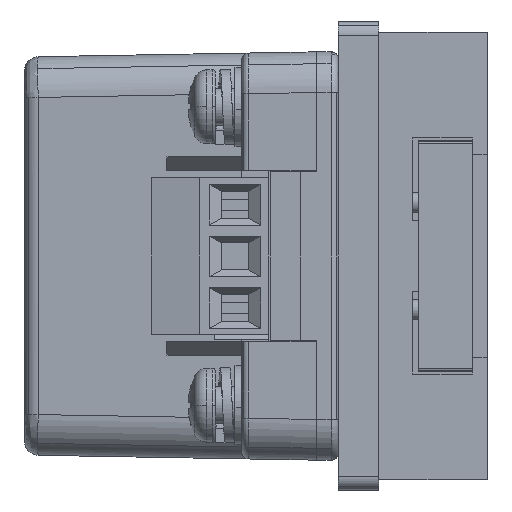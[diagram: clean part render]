
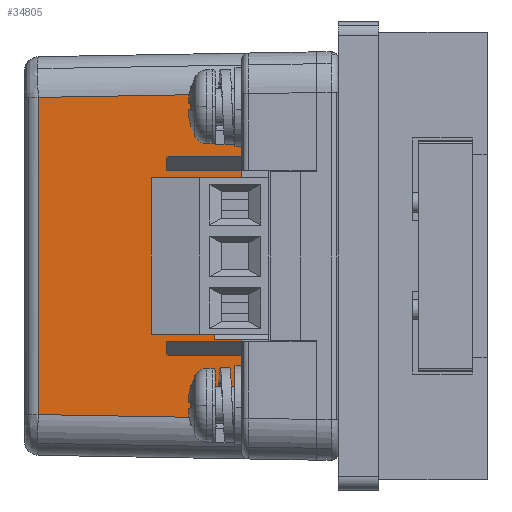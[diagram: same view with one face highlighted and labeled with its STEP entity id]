
A CAD part, left-side view. The second image highlights one B-rep face of the part: STEP entity #34805.
In plain terms, the highlighted planar face has unit normal (-1, 0.018, 0) as drawn and (-1, 0, -0.017) by its records, which use the part's own axes.
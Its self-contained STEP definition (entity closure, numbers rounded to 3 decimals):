
#70 = CARTESIAN_POINT ( 'NONE',  ( -30.569, 7.926, 0.592 ) ) ;
#672 = VERTEX_POINT ( 'NONE', #53516 ) ;
#1274 = CARTESIAN_POINT ( 'NONE',  ( -30.656, -2.749, 5.561 ) ) ;
#1493 = LINE ( 'NONE', #49511, #52818 ) ;
#2602 = LINE ( 'NONE', #17423, #18340 ) ;
#2628 = CARTESIAN_POINT ( 'NONE',  ( -30.656, 10.851, 5.561 ) ) ;
#3668 = ORIENTED_EDGE ( 'NONE', *, *, #37561, .T. ) ;
#4061 = VECTOR ( 'NONE', #16857, 1000. ) ;
#5922 = CARTESIAN_POINT ( 'NONE',  ( -30.665, 10.851, 6.104 ) ) ;
#6237 = EDGE_CURVE ( 'NONE', #34881, #31266, #39708, .T. ) ;
#6418 = VERTEX_POINT ( 'NONE', #15661 ) ;
#7429 = EDGE_CURVE ( 'NONE', #13180, #672, #14000, .T. ) ;
#7533 = VECTOR ( 'NONE', #15758, 1000. ) ;
#7850 = DIRECTION ( 'NONE',  ( -0.017, 0., 1. ) ) ;
#7938 = VECTOR ( 'NONE', #32902, 1000. ) ;
#8865 = VERTEX_POINT ( 'NONE', #49269 ) ;
#9590 = VERTEX_POINT ( 'NONE', #47545 ) ;
#9937 = EDGE_CURVE ( 'NONE', #31266, #38169, #31050, .T. ) ;
#11010 = VERTEX_POINT ( 'NONE', #58834 ) ;
#11232 = VECTOR ( 'NONE', #22037, 1000. ) ;
#11693 = ORIENTED_EDGE ( 'NONE', *, *, #9937, .F. ) ;
#12250 = EDGE_CURVE ( 'NONE', #13027, #13180, #48298, .T. ) ;
#12822 = CARTESIAN_POINT ( 'NONE',  ( -30.665, 15.506, 6.104 ) ) ;
#13027 = VERTEX_POINT ( 'NONE', #60389 ) ;
#13180 = VERTEX_POINT ( 'NONE', #33478 ) ;
#14000 = LINE ( 'NONE', #70, #7938 ) ;
#14325 = DIRECTION ( 'NONE',  ( -0.017, 0., 1. ) ) ;
#15225 = ORIENTED_EDGE ( 'NONE', *, *, #6237, .F. ) ;
#15346 = EDGE_CURVE ( 'NONE', #6418, #8865, #1493, .T. ) ;
#15469 = LINE ( 'NONE', #38440, #7533 ) ;
#15661 = CARTESIAN_POINT ( 'NONE',  ( -30.665, 9.851, 6.104 ) ) ;
#15758 = DIRECTION ( 'NONE',  ( 0., -1., 0. ) ) ;
#16121 = CARTESIAN_POINT ( 'NONE',  ( -30.652, -8.39, 5.341 ) ) ;
#16302 = DIRECTION ( 'NONE',  ( 0.017, 0., -1. ) ) ;
#16857 = DIRECTION ( 'NONE',  ( -0.017, 0.017, 1. ) ) ;
#17143 = FACE_OUTER_BOUND ( 'NONE', #24512, .T. ) ;
#17423 = CARTESIAN_POINT ( 'NONE',  ( -30.569, 14.226, 0.592 ) ) ;
#17446 = CARTESIAN_POINT ( 'NONE',  ( -30.668, 15.508, 6.244 ) ) ;
#17748 = CARTESIAN_POINT ( 'NONE',  ( -30.665, 18.601, 6.104 ) ) ;
#18340 = VECTOR ( 'NONE', #54931, 1000. ) ;
#19217 = ORIENTED_EDGE ( 'NONE', *, *, #39158, .T. ) ;
#19857 = DIRECTION ( 'NONE',  ( -0.017, 0., 1. ) ) ;
#20231 = VECTOR ( 'NONE', #7850, 1000. ) ;
#20276 = ORIENTED_EDGE ( 'NONE', *, *, #29625, .T. ) ;
#21424 = CARTESIAN_POINT ( 'NONE',  ( -30.403, 11.076, -8.913 ) ) ;
#22017 = EDGE_CURVE ( 'NONE', #53495, #59311, #56879, .T. ) ;
#22037 = DIRECTION ( 'NONE',  ( 0., 1., 0. ) ) ;
#22333 = DIRECTION ( 'NONE',  ( 0.017, 0., -1. ) ) ;
#22337 = VECTOR ( 'NONE', #22333, 1000. ) ;
#22392 = PLANE ( 'NONE',  #52546 ) ;
#24512 = EDGE_LOOP ( 'NONE', ( #11693, #15225, #39594, #44194, #55030, #20276, #58910, #19217, #54547, #3668, #39837, #33124 ) ) ;
#26433 = DIRECTION ( 'NONE',  ( -1., 0., -0.017 ) ) ;
#27702 = EDGE_CURVE ( 'NONE', #13027, #34881, #15469, .T. ) ;
#28544 = VECTOR ( 'NONE', #16302, 1000. ) ;
#29137 = LINE ( 'NONE', #1274, #29201 ) ;
#29201 = VECTOR ( 'NONE', #19857, 1000. ) ;
#29625 = EDGE_CURVE ( 'NONE', #672, #8865, #29137, .T. ) ;
#31050 = LINE ( 'NONE', #21424, #11232 ) ;
#31266 = VERTEX_POINT ( 'NONE', #44290 ) ;
#32875 = LINE ( 'NONE', #41869, #22337 ) ;
#32902 = DIRECTION ( 'NONE',  ( 0., 1., 0. ) ) ;
#33044 = DIRECTION ( 'NONE',  ( 0., -1., 0. ) ) ;
#33124 = ORIENTED_EDGE ( 'NONE', *, *, #42736, .F. ) ;
#33478 = CARTESIAN_POINT ( 'NONE',  ( -30.569, -3.749, 0.592 ) ) ;
#34671 = CARTESIAN_POINT ( 'NONE',  ( -30.403, 15.244, -8.913 ) ) ;
#34805 = ADVANCED_FACE ( 'NONE', ( #17143 ), #22392, .T. ) ;
#34881 = VERTEX_POINT ( 'NONE', #52773 ) ;
#37561 = EDGE_CURVE ( 'NONE', #11010, #59311, #45078, .T. ) ;
#38169 = VERTEX_POINT ( 'NONE', #34671 ) ;
#38440 = CARTESIAN_POINT ( 'NONE',  ( -30.665, 11.076, 6.104 ) ) ;
#39158 = EDGE_CURVE ( 'NONE', #6418, #9590, #32875, .T. ) ;
#39594 = ORIENTED_EDGE ( 'NONE', *, *, #27702, .F. ) ;
#39708 = LINE ( 'NONE', #16121, #55348 ) ;
#39837 = ORIENTED_EDGE ( 'NONE', *, *, #22017, .F. ) ;
#41869 = CARTESIAN_POINT ( 'NONE',  ( -30.656, 9.851, 5.561 ) ) ;
#42736 = EDGE_CURVE ( 'NONE', #38169, #53495, #50668, .T. ) ;
#44194 = ORIENTED_EDGE ( 'NONE', *, *, #12250, .T. ) ;
#44290 = CARTESIAN_POINT ( 'NONE',  ( -30.403, -8.141, -8.913 ) ) ;
#45078 = LINE ( 'NONE', #2628, #20231 ) ;
#45448 = CARTESIAN_POINT ( 'NONE',  ( -30.656, -3.749, 5.561 ) ) ;
#45600 = VECTOR ( 'NONE', #33044, 1000. ) ;
#47545 = CARTESIAN_POINT ( 'NONE',  ( -30.569, 9.851, 0.592 ) ) ;
#48298 = LINE ( 'NONE', #45448, #28544 ) ;
#49269 = CARTESIAN_POINT ( 'NONE',  ( -30.665, -2.749, 6.104 ) ) ;
#49319 = DIRECTION ( 'NONE',  ( 0.017, 0.017, -1. ) ) ;
#49511 = CARTESIAN_POINT ( 'NONE',  ( -30.665, 11.076, 6.104 ) ) ;
#50668 = LINE ( 'NONE', #17446, #4061 ) ;
#52546 = AXIS2_PLACEMENT_3D ( 'NONE', #17748, #26433, #14325 ) ;
#52773 = CARTESIAN_POINT ( 'NONE',  ( -30.665, -8.403, 6.104 ) ) ;
#52818 = VECTOR ( 'NONE', #53835, 1000. ) ;
#53495 = VERTEX_POINT ( 'NONE', #12822 ) ;
#53516 = CARTESIAN_POINT ( 'NONE',  ( -30.569, -2.749, 0.592 ) ) ;
#53835 = DIRECTION ( 'NONE',  ( 0., -1., 0. ) ) ;
#54547 = ORIENTED_EDGE ( 'NONE', *, *, #58566, .T. ) ;
#54931 = DIRECTION ( 'NONE',  ( 0., 1., 0. ) ) ;
#55030 = ORIENTED_EDGE ( 'NONE', *, *, #7429, .T. ) ;
#55348 = VECTOR ( 'NONE', #49319, 1000. ) ;
#56569 = CARTESIAN_POINT ( 'NONE',  ( -30.665, 11.076, 6.104 ) ) ;
#56879 = LINE ( 'NONE', #56569, #45600 ) ;
#58566 = EDGE_CURVE ( 'NONE', #9590, #11010, #2602, .T. ) ;
#58834 = CARTESIAN_POINT ( 'NONE',  ( -30.569, 10.851, 0.592 ) ) ;
#58910 = ORIENTED_EDGE ( 'NONE', *, *, #15346, .F. ) ;
#59311 = VERTEX_POINT ( 'NONE', #5922 ) ;
#60389 = CARTESIAN_POINT ( 'NONE',  ( -30.665, -3.749, 6.104 ) ) ;
